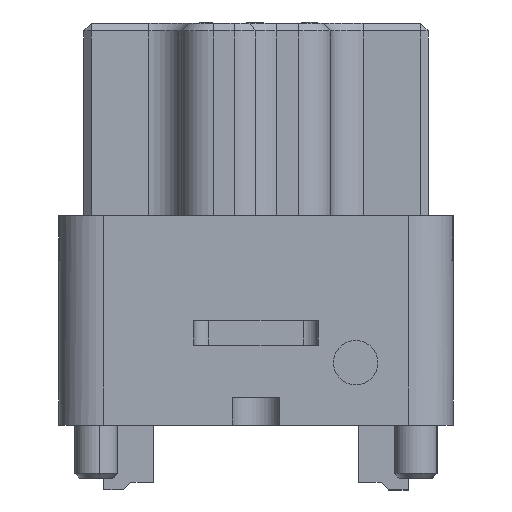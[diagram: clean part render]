
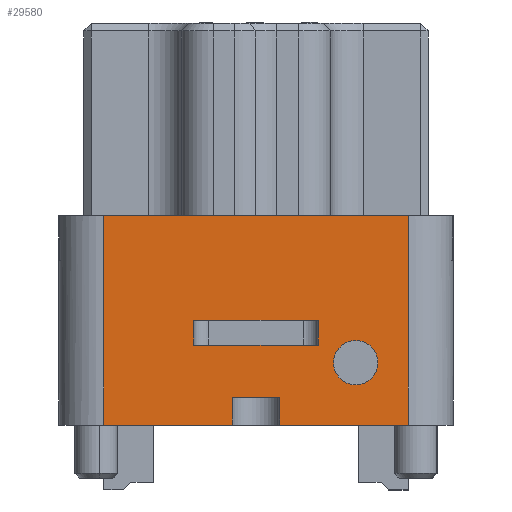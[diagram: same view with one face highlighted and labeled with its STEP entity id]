
A CAD part, front view. The second image highlights one B-rep face of the part: STEP entity #29580.
In plain terms, the highlighted planar face has unit normal (0, -1, 0).
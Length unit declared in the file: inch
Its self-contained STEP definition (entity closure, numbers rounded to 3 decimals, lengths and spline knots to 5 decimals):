
#89 = ORIENTED_EDGE ( 'NONE', *, *, #62946, .T. ) ;
#451 = ORIENTED_EDGE ( 'NONE', *, *, #12119, .F. ) ;
#665 = ORIENTED_EDGE ( 'NONE', *, *, #33903, .F. ) ;
#886 = ORIENTED_EDGE ( 'NONE', *, *, #22160, .T. ) ;
#1194 = DIRECTION ( 'NONE',  ( 0., -1., 0. ) ) ;
#1425 = VECTOR ( 'NONE', #55670, 39.37008 ) ;
#2967 = CARTESIAN_POINT ( 'NONE',  ( 0.2, -2.13, 0.0805 ) ) ;
#4916 = ORIENTED_EDGE ( 'NONE', *, *, #22477, .F. ) ;
#5305 = VERTEX_POINT ( 'NONE', #18950 ) ;
#5702 = EDGE_CURVE ( 'NONE', #19158, #33041, #53567, .T. ) ;
#6130 = VERTEX_POINT ( 'NONE', #65857 ) ;
#6519 = FACE_BOUND ( 'NONE', #10321, .T. ) ;
#7065 = AXIS2_PLACEMENT_3D ( 'NONE', #63335, #32234, #47344 ) ;
#7195 = LINE ( 'NONE', #40207, #56986 ) ;
#7684 = DIRECTION ( 'NONE',  ( 1., 0., 0. ) ) ;
#8291 = ORIENTED_EDGE ( 'NONE', *, *, #45228, .F. ) ;
#8909 = CIRCLE ( 'NONE', #24285, 0.0445 ) ;
#9647 = ORIENTED_EDGE ( 'NONE', *, *, #29071, .F. ) ;
#9719 = CARTESIAN_POINT ( 'NONE',  ( -0.305, -2.13, 0.42 ) ) ;
#9855 = ORIENTED_EDGE ( 'NONE', *, *, #5702, .F. ) ;
#9860 = VERTEX_POINT ( 'NONE', #18805 ) ;
#9950 = DIRECTION ( 'NONE',  ( 0., 0., 1. ) ) ;
#10321 = EDGE_LOOP ( 'NONE', ( #24916, #30940, #30731, #8291 ) ) ;
#11680 = VERTEX_POINT ( 'NONE', #67579 ) ;
#12119 = EDGE_CURVE ( 'NONE', #46459, #42388, #57986, .T. ) ;
#12143 = CARTESIAN_POINT ( 'NONE',  ( -0.125, -2.13, 0.16 ) ) ;
#12205 = DIRECTION ( 'NONE',  ( 1., 0., 0. ) ) ;
#12487 = LINE ( 'NONE', #16369, #14160 ) ;
#14160 = VECTOR ( 'NONE', #43057, 39.37008 ) ;
#14249 = VECTOR ( 'NONE', #48006, 39.37008 ) ;
#15832 = DIRECTION ( 'NONE',  ( 0., 0., -1. ) ) ;
#16369 = CARTESIAN_POINT ( 'NONE',  ( 0.048, -2.13, 0.055 ) ) ;
#16767 = DIRECTION ( 'NONE',  ( 0., 0., -1. ) ) ;
#17682 = VERTEX_POINT ( 'NONE', #54855 ) ;
#17856 = CARTESIAN_POINT ( 'NONE',  ( -0.125, -2.13, 0.16 ) ) ;
#17986 = DIRECTION ( 'NONE',  ( 0., 0., -1. ) ) ;
#18805 = CARTESIAN_POINT ( 'NONE',  ( 0.125, -2.13, 0.21 ) ) ;
#18950 = CARTESIAN_POINT ( 'NONE',  ( -0.048, -2.13, 0.055 ) ) ;
#19039 = CARTESIAN_POINT ( 'NONE',  ( 0.305, -2.13, 0. ) ) ;
#19158 = VERTEX_POINT ( 'NONE', #2967 ) ;
#20358 = CARTESIAN_POINT ( 'NONE',  ( 0.305, -2.13, 0.21 ) ) ;
#21055 = EDGE_LOOP ( 'NONE', ( #9855, #38663 ) ) ;
#21211 = CARTESIAN_POINT ( 'NONE',  ( 0.305, -2.13, 0. ) ) ;
#22160 = EDGE_CURVE ( 'NONE', #46459, #11680, #56896, .T. ) ;
#22477 = EDGE_CURVE ( 'NONE', #5305, #58069, #68408, .T. ) ;
#24140 = CARTESIAN_POINT ( 'NONE',  ( 0.048, -2.13, 0.055 ) ) ;
#24285 = AXIS2_PLACEMENT_3D ( 'NONE', #43232, #1194, #16767 ) ;
#24409 = DIRECTION ( 'NONE',  ( -1., 0., 0. ) ) ;
#24916 = ORIENTED_EDGE ( 'NONE', *, *, #42766, .T. ) ;
#25909 = VERTEX_POINT ( 'NONE', #24140 ) ;
#26300 = LINE ( 'NONE', #17856, #1425 ) ;
#26993 = LINE ( 'NONE', #40828, #67619 ) ;
#28205 = EDGE_LOOP ( 'NONE', ( #886, #39500, #4916, #665, #34011, #89, #9647, #451 ) ) ;
#29071 = EDGE_CURVE ( 'NONE', #42388, #43027, #64646, .T. ) ;
#29283 = DIRECTION ( 'NONE',  ( 0., -1., 0. ) ) ;
#29406 = CARTESIAN_POINT ( 'NONE',  ( 0.305, -2.13, 0.42 ) ) ;
#29580 = ADVANCED_FACE ( 'NONE', ( #6519, #37188, #33073 ), #64253, .F. ) ;
#30731 = ORIENTED_EDGE ( 'NONE', *, *, #46548, .F. ) ;
#30940 = ORIENTED_EDGE ( 'NONE', *, *, #49288, .T. ) ;
#31947 = CARTESIAN_POINT ( 'NONE',  ( 0.2, -2.13, 0.1695 ) ) ;
#32165 = VERTEX_POINT ( 'NONE', #12143 ) ;
#32234 = DIRECTION ( 'NONE',  ( 0., 1., 0. ) ) ;
#32668 = CARTESIAN_POINT ( 'NONE',  ( -0.125, -2.13, 0.16 ) ) ;
#33041 = VERTEX_POINT ( 'NONE', #31947 ) ;
#33073 = FACE_BOUND ( 'NONE', #21055, .T. ) ;
#33246 = DIRECTION ( 'NONE',  ( 0., 0., -1. ) ) ;
#33903 = EDGE_CURVE ( 'NONE', #25909, #5305, #7195, .T. ) ;
#34011 = ORIENTED_EDGE ( 'NONE', *, *, #43321, .T. ) ;
#35753 = CARTESIAN_POINT ( 'NONE',  ( -0.048, -2.13, 0.055 ) ) ;
#35802 = LINE ( 'NONE', #19039, #48312 ) ;
#37188 = FACE_OUTER_BOUND ( 'NONE', #28205, .T. ) ;
#37683 = VECTOR ( 'NONE', #42397, 39.37008 ) ;
#38198 = VECTOR ( 'NONE', #12205, 39.37008 ) ;
#38663 = ORIENTED_EDGE ( 'NONE', *, *, #67474, .F. ) ;
#39500 = ORIENTED_EDGE ( 'NONE', *, *, #64360, .T. ) ;
#39758 = CARTESIAN_POINT ( 'NONE',  ( 0.2, -2.13, 0.125 ) ) ;
#40207 = CARTESIAN_POINT ( 'NONE',  ( -0.048, -2.13, 0.055 ) ) ;
#40225 = VECTOR ( 'NONE', #15832, 39.37008 ) ;
#40717 = DIRECTION ( 'NONE',  ( 0., 0., -1. ) ) ;
#40828 = CARTESIAN_POINT ( 'NONE',  ( 0.125, -2.13, 0.16 ) ) ;
#42388 = VERTEX_POINT ( 'NONE', #44584 ) ;
#42397 = DIRECTION ( 'NONE',  ( 1., 0., 0. ) ) ;
#42766 = EDGE_CURVE ( 'NONE', #32165, #42784, #60692, .T. ) ;
#42784 = VERTEX_POINT ( 'NONE', #48703 ) ;
#43022 = CARTESIAN_POINT ( 'NONE',  ( 0.305, -2.13, 0.42 ) ) ;
#43027 = VERTEX_POINT ( 'NONE', #55406 ) ;
#43057 = DIRECTION ( 'NONE',  ( 0., 0., -1. ) ) ;
#43232 = CARTESIAN_POINT ( 'NONE',  ( 0.2, -2.13, 0.125 ) ) ;
#43321 = EDGE_CURVE ( 'NONE', #25909, #17682, #12487, .T. ) ;
#44584 = CARTESIAN_POINT ( 'NONE',  ( 0.305, -2.13, 0.42 ) ) ;
#45228 = EDGE_CURVE ( 'NONE', #32165, #6130, #26300, .T. ) ;
#45910 = DIRECTION ( 'NONE',  ( 1., 0., 0. ) ) ;
#46059 = CARTESIAN_POINT ( 'NONE',  ( -0.305, -2.13, 0.42 ) ) ;
#46459 = VERTEX_POINT ( 'NONE', #9719 ) ;
#46548 = EDGE_CURVE ( 'NONE', #6130, #9860, #26993, .T. ) ;
#47344 = DIRECTION ( 'NONE',  ( 0., 0., 1. ) ) ;
#47768 = VECTOR ( 'NONE', #40717, 39.37008 ) ;
#48006 = DIRECTION ( 'NONE',  ( 0., 0., 1. ) ) ;
#48312 = VECTOR ( 'NONE', #7684, 39.37008 ) ;
#48508 = LINE ( 'NONE', #20358, #37683 ) ;
#48703 = CARTESIAN_POINT ( 'NONE',  ( -0.125, -2.13, 0.21 ) ) ;
#49288 = EDGE_CURVE ( 'NONE', #42784, #9860, #48508, .T. ) ;
#53567 = CIRCLE ( 'NONE', #57840, 0.0445 ) ;
#53915 = VECTOR ( 'NONE', #33246, 39.37008 ) ;
#54496 = CARTESIAN_POINT ( 'NONE',  ( -0.048, -2.13, 0. ) ) ;
#54855 = CARTESIAN_POINT ( 'NONE',  ( 0.048, -2.13, 0. ) ) ;
#55406 = CARTESIAN_POINT ( 'NONE',  ( 0.305, -2.13, 0. ) ) ;
#55670 = DIRECTION ( 'NONE',  ( 1., 0., 0. ) ) ;
#56896 = LINE ( 'NONE', #46059, #47768 ) ;
#56986 = VECTOR ( 'NONE', #24409, 39.37008 ) ;
#57840 = AXIS2_PLACEMENT_3D ( 'NONE', #39758, #29283, #17986 ) ;
#57986 = LINE ( 'NONE', #29406, #67848 ) ;
#58069 = VERTEX_POINT ( 'NONE', #54496 ) ;
#58986 = LINE ( 'NONE', #21211, #38198 ) ;
#60692 = LINE ( 'NONE', #32668, #14249 ) ;
#62946 = EDGE_CURVE ( 'NONE', #17682, #43027, #58986, .T. ) ;
#63335 = CARTESIAN_POINT ( 'NONE',  ( 0.305, -2.13, 0.42 ) ) ;
#64253 = PLANE ( 'NONE',  #7065 ) ;
#64360 = EDGE_CURVE ( 'NONE', #11680, #58069, #35802, .T. ) ;
#64646 = LINE ( 'NONE', #43022, #53915 ) ;
#65857 = CARTESIAN_POINT ( 'NONE',  ( 0.125, -2.13, 0.16 ) ) ;
#67474 = EDGE_CURVE ( 'NONE', #33041, #19158, #8909, .T. ) ;
#67579 = CARTESIAN_POINT ( 'NONE',  ( -0.305, -2.13, 0. ) ) ;
#67619 = VECTOR ( 'NONE', #9950, 39.37008 ) ;
#67848 = VECTOR ( 'NONE', #45910, 39.37008 ) ;
#68408 = LINE ( 'NONE', #35753, #40225 ) ;
